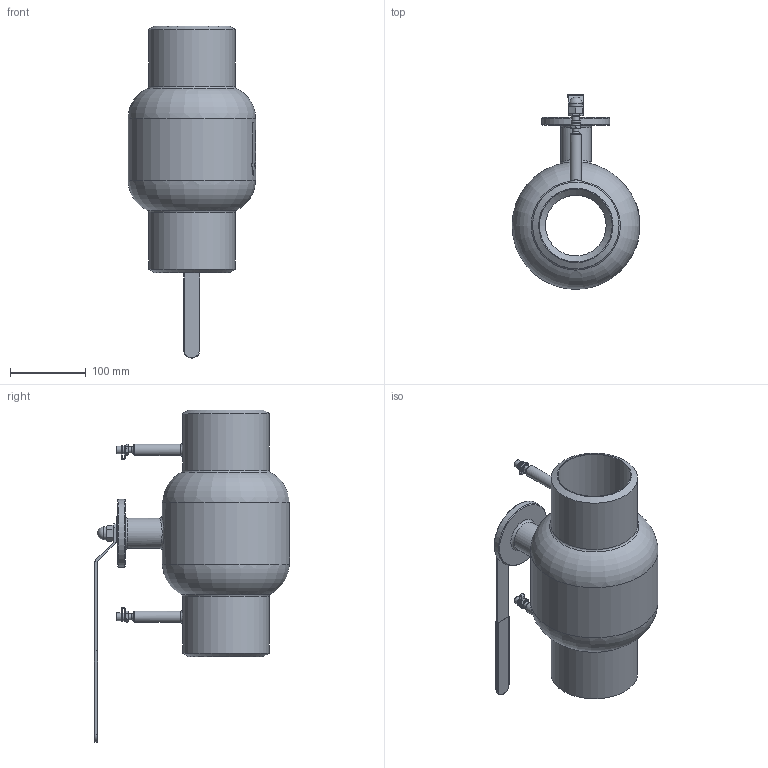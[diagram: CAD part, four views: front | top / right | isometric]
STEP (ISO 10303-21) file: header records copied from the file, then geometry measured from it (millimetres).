
FILE_DESCRIPTION(('STEP AP214'), '1');
FILE_NAME('BVR3232P-SP-W-H Êðàí øàðîâîé ðåãóëèðóþùèé DN.ru Äó100 Py16', '', ('UNSPECIFIED'), ('UNSPECIFIED'), 'C3D Converter', 'C3D Toolkit', '');
FILE_SCHEMA(('AUTOMOTIVE_DESIGN { 1 0 10303 214 3 1 1}'));
Length unit declared in the file: millimetre
Products named in the file (1): BVR3232P-SP-W-H
Bounding box: 168.45 x 257 x 437.5 mm (x, y, z)
Volume: 2965914.1 mm3; surface area: 291555.2 mm2
Topology: 1 solids, 1 shells, 842 faces, 2165 edges, 1435 vertices
Faces by surface type: plane 412, bspline 187, extrusion 127, cylinder 88, cone 18, torus 9, sphere 1
Full cylindrical faces by diameter (mm): 8 x10, 10 x4, 12 x1, 15 x2, 17 x1, 40 x1, 80 x1, 90 x1, 96 x2, 114 x2, 168 x1
Entity records: 88820 total; most frequent: CARTESIAN_POINT 68993, ORIENTED_EDGE 4220, DIRECTION 2740, EDGE_CURVE 2110, VERTEX_POINT 1433, VECTOR 1188, LINE 1061, EDGE_LOOP 1011
